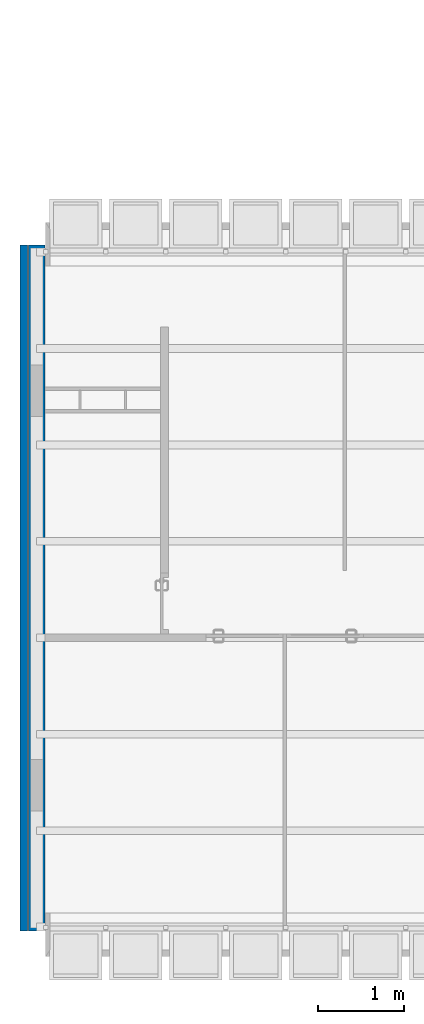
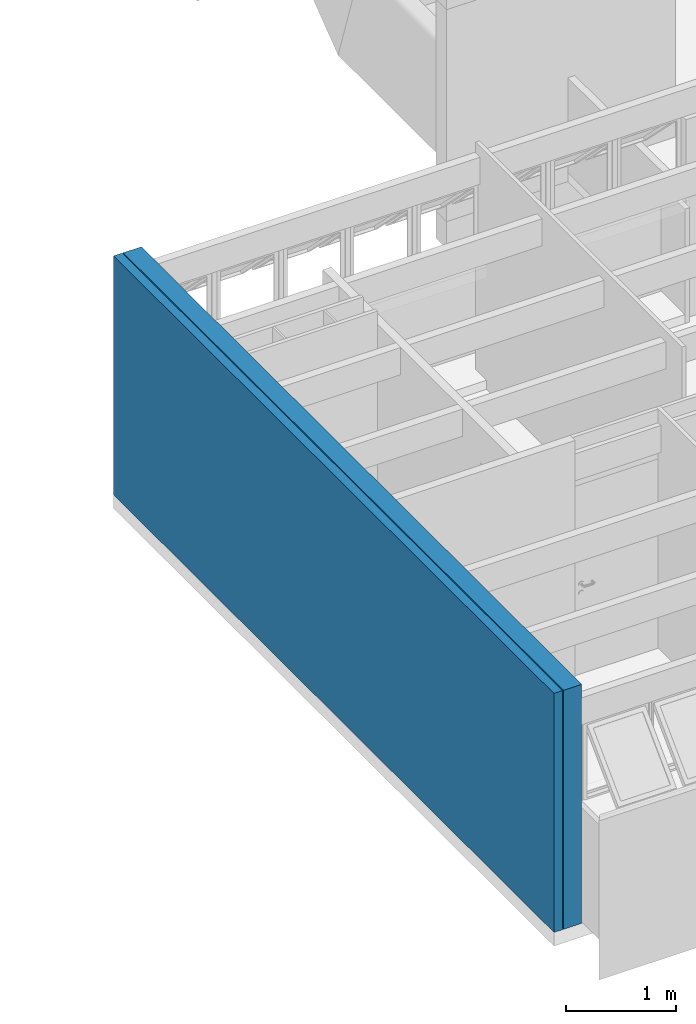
# One storey, part 6 of 37: 2 walls.
"""IFC2X3 building model written with IfcOpenShell, lengths in millimetres."""

from ifc_helpers import new_model, entity, si_unit, converted_unit, derived_unit, money_unit, direction, frame, origin_with_axes, place, context, subcontext, project, spatial, polyline, outline, extrude, material, layer, layer_set, layer_usage, type_object, element, save


model = new_model("IFC2X3")

# Units and contexts
model_context = context("Model", 3, precision=0.01, world=origin_with_axes(), true_north=direction((0.0, 1.0)))
body_context = subcontext(model_context, "Body", "Model", "MODEL_VIEW")
ifc_project = project(units=[si_unit("LENGTHUNIT", "METRE", prefix="MILLI"), si_unit("AREAUNIT", "SQUARE_METRE"), si_unit("VOLUMEUNIT", "CUBIC_METRE"), converted_unit("PLANEANGLEUNIT", "DEGREE", entity("IfcPlaneAngleMeasure", 0.0174532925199), si_unit("PLANEANGLEUNIT", "RADIAN"), dimensions=[0, 0, 0, 0, 0, 0, 0]), money_unit("USD"), converted_unit("TIMEUNIT", "Year", entity("IfcTimeMeasure", 31556926.0), si_unit("TIMEUNIT", "SECOND"), dimensions=[0, 0, 1, 0, 0, 0, 0]), si_unit("MASSUNIT", "GRAM", prefix="KILO"), si_unit("THERMODYNAMICTEMPERATUREUNIT", "DEGREE_CELSIUS"), si_unit("LUMINOUSINTENSITYUNIT", "LUMEN"), si_unit("ENERGYUNIT", "JOULE", prefix="MEGA"), derived_unit("THERMALCONDUCTANCEUNIT", [(si_unit("POWERUNIT", "WATT"), 1), (si_unit("LENGTHUNIT", "METRE"), -1), (si_unit("THERMODYNAMICTEMPERATUREUNIT", "KELVIN"), -1)]), derived_unit("SPECIFICHEATCAPACITYUNIT", [(si_unit("ENERGYUNIT", "JOULE"), 1), (si_unit("MASSUNIT", "GRAM", prefix="KILO"), -1), (si_unit("THERMODYNAMICTEMPERATUREUNIT", "KELVIN"), -1)]), derived_unit("MASSDENSITYUNIT", [(si_unit("MASSUNIT", "GRAM", prefix="KILO"), 1), (si_unit("VOLUMEUNIT", "CUBIC_METRE"), -1)])], contexts=[model_context])

# Site, building, storey
site_placement = place(None, origin_with_axes())
site = spatial("IfcSite", under=ifc_project, at=site_placement, Name="Local", CompositionType="ELEMENT")
building_placement = place(site_placement, origin_with_axes())
building = spatial("IfcBuilding", under=site, at=building_placement, Name="Construção", CompositionType="ELEMENT")
storey_placement = place(building_placement, origin_with_axes())
storey = spatial("IfcBuildingStorey", under=building, at=storey_placement, Name="Primeiro Pavimento", CompositionType="ELEMENT", Elevation=0.0)

# Walls
ifc_material = material(Name="GENÉRICO - VEDAÇÃO EXTERNA")
ifc_layer_1 = layer(ifc_material, 190.0, ventilated="UNKNOWN")
ifc_layer_set_1 = layer_set([ifc_layer_1], Name="GENÉRICO - VEDAÇÃO EXTERNA 190")
ifc_layer_usage_1 = layer_usage(ifc_layer_set_1, "AXIS2", "NEGATIVE", 0.0)
wall_type_1 = type_object("IfcWallType", Name="GENÉRICO - VEDAÇÃO EXTERNA 190", PredefinedType="NOTDEFINED")
wall_1_placement = place(storey_placement, frame((290.0, 8300.0, 0.0), z_axis=(0.0, 0.0, 1.0), x_axis=(0.0, -1.0, 0.0)))
element("IfcWallStandardCase", 1, at=wall_1_placement, inside=storey, type_object=wall_type_1, material=ifc_layer_usage_1, Name="APTO1-PAREDE-013", context=body_context, shape_type="SweptSolid", body=[
    extrude(outline(polyline([(0.0, -190.0), (8000.0, -190.0), (8000.0, 0.0), (0.0, 0.0), (0.0, -190.0)])), origin_with_axes(), (0.0, 0.0, 1.0), 2650.0),
])
ifc_layer_2 = layer(ifc_material, 90.0, ventilated="UNKNOWN")
ifc_layer_set_2 = layer_set([ifc_layer_2], Name="GENÉRICO - VEDAÇÃO EXTERNA 90")
ifc_layer_usage_2 = layer_usage(ifc_layer_set_2, "AXIS2", "NEGATIVE", 0.0)
wall_type_2 = type_object("IfcWallType", Name="GENÉRICO - VEDAÇÃO EXTERNA 90", PredefinedType="NOTDEFINED")
wall_2_placement = place(storey_placement, frame((90.0, 8300.0, 0.0), z_axis=(0.0, 0.0, 1.0), x_axis=(0.0, -1.0, 0.0)))
element("IfcWallStandardCase", 2, at=wall_2_placement, inside=storey, type_object=wall_type_2, material=ifc_layer_usage_2, Name="APTO1-PAREDE-014", context=body_context, shape_type="SweptSolid", body=[
    extrude(outline(polyline([(0.0, -90.0), (8000.0, -90.0), (8000.0, 0.0), (0.0, 0.0), (0.0, -90.0)])), origin_with_axes(), (0.0, 0.0, 1.0), 2650.0),
])

save(model, "model.ifc")
